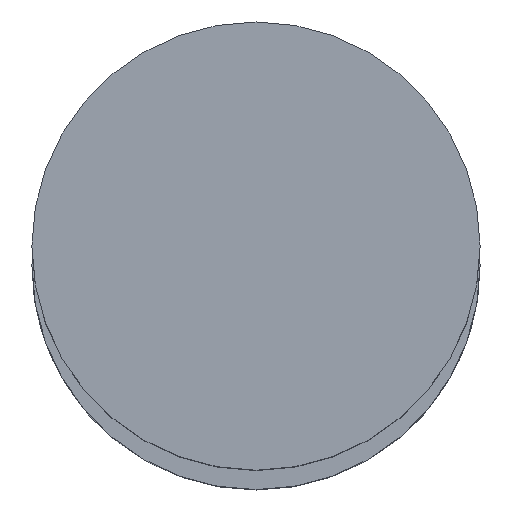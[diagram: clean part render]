
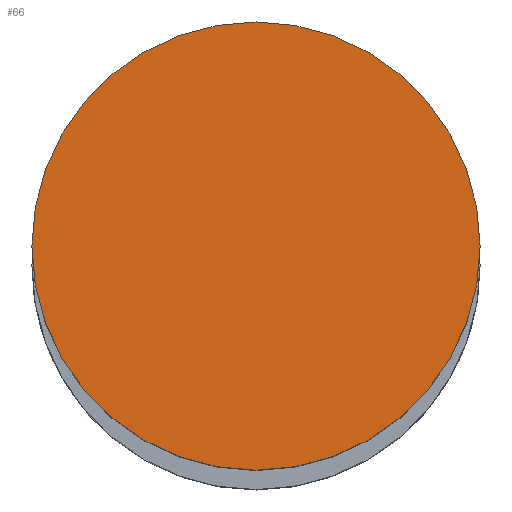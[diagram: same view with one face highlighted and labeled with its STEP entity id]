
A CAD part, top view. The second image highlights one B-rep face of the part: STEP entity #66.
In plain terms, the highlighted planar face has unit normal (0, 0, 1).
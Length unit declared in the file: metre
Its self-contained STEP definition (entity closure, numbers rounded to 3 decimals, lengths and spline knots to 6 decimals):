
#66=ADVANCED_FACE('25:217',(#141),#142,.T.);
#141=FACE_OUTER_BOUND('',#230,.T.);
#142=PLANE('',#231);
#230=EDGE_LOOP('',(#327,#328));
#231=AXIS2_PLACEMENT_3D('',#329,#330,#331);
#327=ORIENTED_EDGE('',*,*,#504,.F.);
#328=ORIENTED_EDGE('',*,*,#505,.F.);
#329=CARTESIAN_POINT('',(0.0,0.0,3.434));
#330=DIRECTION('',(0.0,0.0,1.0));
#331=DIRECTION('',(1.0,0.0,0.0));
#504=EDGE_CURVE('',#599,#600,#601,.F.);
#505=EDGE_CURVE('',#600,#599,#602,.F.);
#599=VERTEX_POINT('',#724);
#600=VERTEX_POINT('',#725);
#601=CIRCLE('',#726,0.0155);
#602=CIRCLE('',#727,0.0155);
#724=CARTESIAN_POINT('',(-0.015592,0.000095,3.434));
#725=CARTESIAN_POINT('',(0.015408,0.000095,3.434));
#726=AXIS2_PLACEMENT_3D('',#860,#861,#862);
#727=AXIS2_PLACEMENT_3D('',#863,#864,#865);
#860=CARTESIAN_POINT('',(-0.000092,0.000095,3.434));
#861=DIRECTION('',(0.0,0.0,1.0));
#862=DIRECTION('',(1.0,0.0,0.0));
#863=CARTESIAN_POINT('',(-0.000092,0.000095,3.434));
#864=DIRECTION('',(0.0,0.0,1.0));
#865=DIRECTION('',(1.0,0.0,0.0));
